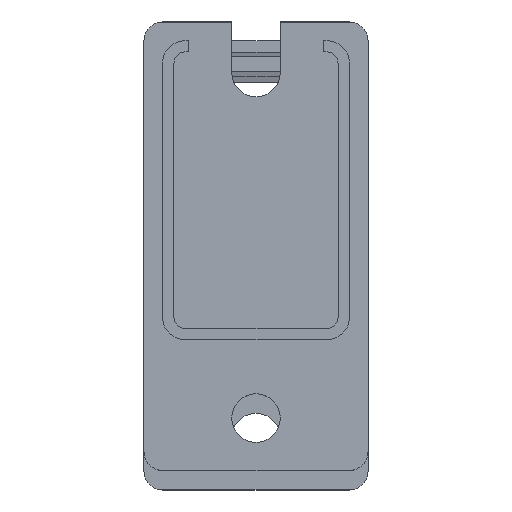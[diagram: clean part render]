
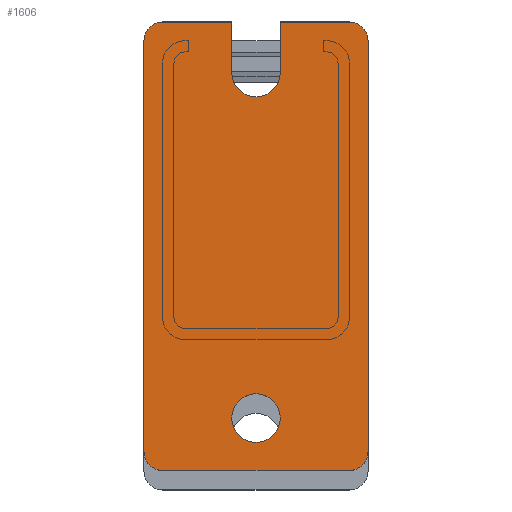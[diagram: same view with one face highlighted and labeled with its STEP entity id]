
A CAD part, top view. The second image highlights one B-rep face of the part: STEP entity #1606.
In plain terms, the highlighted planar face has unit normal (0, 0, 1).
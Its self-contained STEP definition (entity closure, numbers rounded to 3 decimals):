
#1 = CARTESIAN_POINT ( 'NONE',  ( 3.25, -30.5, 369.5 ) ) ;
#2 = VECTOR ( 'NONE', #471, 1000. ) ;
#23 = VERTEX_POINT ( 'NONE', #1 ) ;
#42 = ORIENTED_EDGE ( 'NONE', *, *, #2549, .F. ) ;
#54 = CARTESIAN_POINT ( 'NONE',  ( 15., -35., 369.5 ) ) ;
#107 = DIRECTION ( 'NONE',  ( 0., 0., -1. ) ) ;
#115 = DIRECTION ( 'NONE',  ( 0., 0., -1. ) ) ;
#124 = EDGE_CURVE ( 'NONE', #829, #2758, #2519, .T. ) ;
#207 = PLANE ( 'NONE',  #619 ) ;
#240 = DIRECTION ( 'NONE',  ( 1., 0., 0. ) ) ;
#256 = DIRECTION ( 'NONE',  ( 0., 0., 1. ) ) ;
#257 = DIRECTION ( 'NONE',  ( 0., 1., 0. ) ) ;
#264 = AXIS2_PLACEMENT_3D ( 'NONE', #1775, #107, #324 ) ;
#307 = CARTESIAN_POINT ( 'NONE',  ( 0., 22.5, 369.5 ) ) ;
#310 = CIRCLE ( 'NONE', #1393, 2.5 ) ;
#314 = VERTEX_POINT ( 'NONE', #2005 ) ;
#321 = VERTEX_POINT ( 'NONE', #368 ) ;
#324 = DIRECTION ( 'NONE',  ( 1., 0., 0. ) ) ;
#325 = EDGE_CURVE ( 'NONE', #321, #2758, #518, .T. ) ;
#345 = ORIENTED_EDGE ( 'NONE', *, *, #1885, .F. ) ;
#368 = CARTESIAN_POINT ( 'NONE',  ( 3.25, 22.5, 369.5 ) ) ;
#375 = DIRECTION ( 'NONE',  ( 1., 0., 0. ) ) ;
#402 = FACE_BOUND ( 'NONE', #2426, .T. ) ;
#425 = CARTESIAN_POINT ( 'NONE',  ( -15., 20., 369.5 ) ) ;
#471 = DIRECTION ( 'NONE',  ( 0., 1., 0. ) ) ;
#490 = DIRECTION ( 'NONE',  ( 1., 0., 0. ) ) ;
#518 = LINE ( 'NONE', #307, #941 ) ;
#560 = DIRECTION ( 'NONE',  ( 0., 1., 0. ) ) ;
#566 = AXIS2_PLACEMENT_3D ( 'NONE', #767, #256, #1390 ) ;
#577 = ORIENTED_EDGE ( 'NONE', *, *, #1934, .T. ) ;
#588 = ORIENTED_EDGE ( 'NONE', *, *, #2167, .F. ) ;
#593 = EDGE_CURVE ( 'NONE', #2485, #2702, #2337, .T. ) ;
#619 = AXIS2_PLACEMENT_3D ( 'NONE', #1257, #2115, #1490 ) ;
#621 = CIRCLE ( 'NONE', #2556, 3.25 ) ;
#623 = CARTESIAN_POINT ( 'NONE',  ( 3.25, 0., 369.5 ) ) ;
#637 = DIRECTION ( 'NONE',  ( 0., 0., 1. ) ) ;
#649 = LINE ( 'NONE', #1513, #2 ) ;
#677 = CARTESIAN_POINT ( 'NONE',  ( 0., -30.5, 369.5 ) ) ;
#720 = VECTOR ( 'NONE', #375, 1000. ) ;
#722 = CARTESIAN_POINT ( 'NONE',  ( 0., -37.5, 369.5 ) ) ;
#752 = VECTOR ( 'NONE', #2424, 1000. ) ;
#762 = LINE ( 'NONE', #1580, #752 ) ;
#767 = CARTESIAN_POINT ( 'NONE',  ( 0., 15.75, 369.5 ) ) ;
#826 = EDGE_CURVE ( 'NONE', #1102, #2277, #1674, .T. ) ;
#829 = VERTEX_POINT ( 'NONE', #1847 ) ;
#848 = VECTOR ( 'NONE', #490, 1000. ) ;
#868 = CARTESIAN_POINT ( 'NONE',  ( -12.5, 22.5, 369.5 ) ) ;
#876 = VERTEX_POINT ( 'NONE', #1835 ) ;
#893 = CIRCLE ( 'NONE', #2464, 3.25 ) ;
#906 = DIRECTION ( 'NONE',  ( 0., 0., 1. ) ) ;
#941 = VECTOR ( 'NONE', #1225, 1000. ) ;
#942 = VERTEX_POINT ( 'NONE', #1161 ) ;
#949 = DIRECTION ( 'NONE',  ( 1., 0., 0. ) ) ;
#1079 = CARTESIAN_POINT ( 'NONE',  ( 12.5, 20., 369.5 ) ) ;
#1090 = ORIENTED_EDGE ( 'NONE', *, *, #2778, .F. ) ;
#1102 = VERTEX_POINT ( 'NONE', #425 ) ;
#1130 = VERTEX_POINT ( 'NONE', #54 ) ;
#1140 = DIRECTION ( 'NONE',  ( 0., 0., 1. ) ) ;
#1161 = CARTESIAN_POINT ( 'NONE',  ( -15., -35., 369.5 ) ) ;
#1188 = CARTESIAN_POINT ( 'NONE',  ( -12.5, 20., 369.5 ) ) ;
#1223 = ORIENTED_EDGE ( 'NONE', *, *, #2256, .F. ) ;
#1225 = DIRECTION ( 'NONE',  ( 1., 0., 0. ) ) ;
#1257 = CARTESIAN_POINT ( 'NONE',  ( 0., 0., 369.5 ) ) ;
#1295 = CARTESIAN_POINT ( 'NONE',  ( 12.5, -37.5, 369.5 ) ) ;
#1311 = VECTOR ( 'NONE', #560, 1000. ) ;
#1390 = DIRECTION ( 'NONE',  ( 1., 0., 0. ) ) ;
#1393 = AXIS2_PLACEMENT_3D ( 'NONE', #1956, #637, #2583 ) ;
#1490 = DIRECTION ( 'NONE',  ( 1., 0., 0. ) ) ;
#1513 = CARTESIAN_POINT ( 'NONE',  ( -15., 0., 369.5 ) ) ;
#1523 = DIRECTION ( 'NONE',  ( 1., 0., 0. ) ) ;
#1532 = ORIENTED_EDGE ( 'NONE', *, *, #1863, .F. ) ;
#1580 = CARTESIAN_POINT ( 'NONE',  ( 15., 0., 369.5 ) ) ;
#1606 = ADVANCED_FACE ( 'NONE', ( #2542, #402 ), #207, .T. ) ;
#1614 = VECTOR ( 'NONE', #257, 1000. ) ;
#1640 = ORIENTED_EDGE ( 'NONE', *, *, #1818, .T. ) ;
#1663 = ORIENTED_EDGE ( 'NONE', *, *, #826, .F. ) ;
#1674 = CIRCLE ( 'NONE', #2620, 2.5 ) ;
#1685 = CARTESIAN_POINT ( 'NONE',  ( 0., 22.5, 369.5 ) ) ;
#1696 = CARTESIAN_POINT ( 'NONE',  ( -3.25, 22.5, 369.5 ) ) ;
#1722 = CARTESIAN_POINT ( 'NONE',  ( -3.25, 0., 369.5 ) ) ;
#1746 = DIRECTION ( 'NONE',  ( 0., 0., 1. ) ) ;
#1775 = CARTESIAN_POINT ( 'NONE',  ( 12.5, -35., 369.5 ) ) ;
#1812 = EDGE_LOOP ( 'NONE', ( #1090, #2520, #42, #1663, #2062, #2271, #577, #1532, #1640, #2655, #2244, #1223 ) ) ;
#1818 = EDGE_CURVE ( 'NONE', #1130, #829, #762, .T. ) ;
#1829 = DIRECTION ( 'NONE',  ( 1., 0., 0. ) ) ;
#1835 = CARTESIAN_POINT ( 'NONE',  ( -3.25, -30.5, 369.5 ) ) ;
#1847 = CARTESIAN_POINT ( 'NONE',  ( 15., 20., 369.5 ) ) ;
#1863 = EDGE_CURVE ( 'NONE', #1130, #2240, #2050, .T. ) ;
#1885 = EDGE_CURVE ( 'NONE', #23, #876, #621, .T. ) ;
#1889 = CARTESIAN_POINT ( 'NONE',  ( 12.5, 22.5, 369.5 ) ) ;
#1934 = EDGE_CURVE ( 'NONE', #2049, #2240, #2649, .T. ) ;
#1944 = LINE ( 'NONE', #623, #1614 ) ;
#1956 = CARTESIAN_POINT ( 'NONE',  ( -12.5, -35., 369.5 ) ) ;
#2005 = CARTESIAN_POINT ( 'NONE',  ( 3.25, 15.75, 369.5 ) ) ;
#2049 = VERTEX_POINT ( 'NONE', #2094 ) ;
#2050 = CIRCLE ( 'NONE', #264, 2.5 ) ;
#2062 = ORIENTED_EDGE ( 'NONE', *, *, #2230, .F. ) ;
#2094 = CARTESIAN_POINT ( 'NONE',  ( -12.5, -37.5, 369.5 ) ) ;
#2115 = DIRECTION ( 'NONE',  ( 0., 0., 1. ) ) ;
#2167 = EDGE_CURVE ( 'NONE', #876, #23, #893, .T. ) ;
#2201 = EDGE_CURVE ( 'NONE', #942, #2049, #310, .T. ) ;
#2230 = EDGE_CURVE ( 'NONE', #942, #1102, #649, .T. ) ;
#2240 = VERTEX_POINT ( 'NONE', #1295 ) ;
#2244 = ORIENTED_EDGE ( 'NONE', *, *, #325, .F. ) ;
#2256 = EDGE_CURVE ( 'NONE', #314, #321, #1944, .T. ) ;
#2271 = ORIENTED_EDGE ( 'NONE', *, *, #2201, .T. ) ;
#2277 = VERTEX_POINT ( 'NONE', #868 ) ;
#2337 = LINE ( 'NONE', #1722, #1311 ) ;
#2424 = DIRECTION ( 'NONE',  ( 0., 1., 0. ) ) ;
#2426 = EDGE_LOOP ( 'NONE', ( #588, #345 ) ) ;
#2464 = AXIS2_PLACEMENT_3D ( 'NONE', #677, #1746, #1523 ) ;
#2485 = VERTEX_POINT ( 'NONE', #2579 ) ;
#2519 = CIRCLE ( 'NONE', #2698, 2.5 ) ;
#2520 = ORIENTED_EDGE ( 'NONE', *, *, #593, .T. ) ;
#2542 = FACE_OUTER_BOUND ( 'NONE', #1812, .T. ) ;
#2549 = EDGE_CURVE ( 'NONE', #2277, #2702, #2756, .T. ) ;
#2556 = AXIS2_PLACEMENT_3D ( 'NONE', #2675, #1140, #1829 ) ;
#2579 = CARTESIAN_POINT ( 'NONE',  ( -3.25, 15.75, 369.5 ) ) ;
#2583 = DIRECTION ( 'NONE',  ( 1., 0., 0. ) ) ;
#2620 = AXIS2_PLACEMENT_3D ( 'NONE', #1188, #115, #949 ) ;
#2649 = LINE ( 'NONE', #722, #848 ) ;
#2655 = ORIENTED_EDGE ( 'NONE', *, *, #124, .T. ) ;
#2675 = CARTESIAN_POINT ( 'NONE',  ( 0., -30.5, 369.5 ) ) ;
#2680 = CIRCLE ( 'NONE', #566, 3.25 ) ;
#2698 = AXIS2_PLACEMENT_3D ( 'NONE', #1079, #906, #240 ) ;
#2702 = VERTEX_POINT ( 'NONE', #1696 ) ;
#2756 = LINE ( 'NONE', #1685, #720 ) ;
#2758 = VERTEX_POINT ( 'NONE', #1889 ) ;
#2778 = EDGE_CURVE ( 'NONE', #2485, #314, #2680, .T. ) ;
